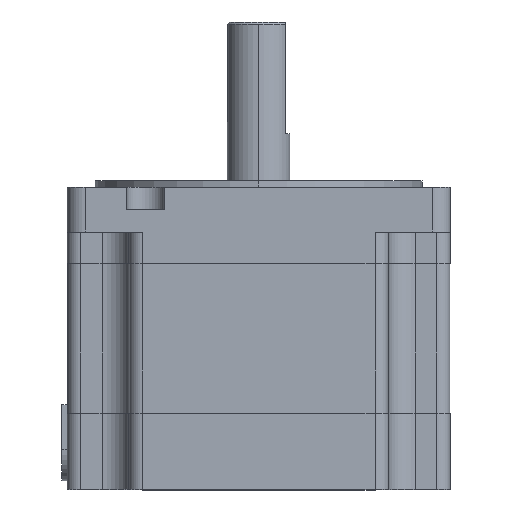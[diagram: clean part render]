
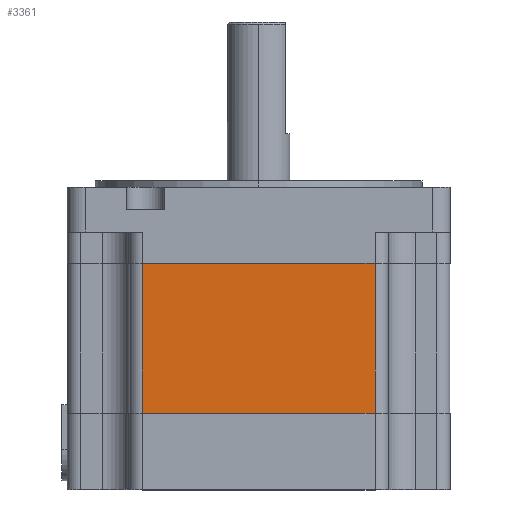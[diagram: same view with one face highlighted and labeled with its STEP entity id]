
A CAD part, top view. The second image highlights one B-rep face of the part: STEP entity #3361.
In plain terms, the highlighted planar face has unit normal (0, 0, 1).
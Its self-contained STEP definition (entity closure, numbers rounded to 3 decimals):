
#241 = ORIENTED_EDGE ( 'NONE', *, *, #2134, .F. ) ;
#314 = EDGE_CURVE ( 'NONE', #4125, #1324, #1613, .T. ) ;
#442 = LINE ( 'NONE', #4560, #6207 ) ;
#729 = FACE_OUTER_BOUND ( 'NONE', #2562, .T. ) ;
#1324 = VERTEX_POINT ( 'NONE', #3526 ) ;
#1369 = DIRECTION ( 'NONE',  ( -1., 0., 0. ) ) ;
#1480 = LINE ( 'NONE', #5646, #3958 ) ;
#1613 = LINE ( 'NONE', #4343, #2693 ) ;
#1773 = LINE ( 'NONE', #4342, #6201 ) ;
#2134 = EDGE_CURVE ( 'NONE', #4125, #4378, #442, .T. ) ;
#2162 = ORIENTED_EDGE ( 'NONE', *, *, #2312, .T. ) ;
#2312 = EDGE_CURVE ( 'NONE', #1324, #3831, #1773, .T. ) ;
#2549 = PLANE ( 'NONE',  #5301 ) ;
#2562 = EDGE_LOOP ( 'NONE', ( #6699, #241, #5929, #2162 ) ) ;
#2598 = CARTESIAN_POINT ( 'NONE',  ( 26., -40.5, 42.7 ) ) ;
#2660 = CARTESIAN_POINT ( 'NONE',  ( 26., -7., 42.7 ) ) ;
#2693 = VECTOR ( 'NONE', #2841, 1000. ) ;
#2841 = DIRECTION ( 'NONE',  ( -1., 0., 0. ) ) ;
#3297 = EDGE_CURVE ( 'NONE', #4378, #3831, #1480, .T. ) ;
#3361 = ADVANCED_FACE ( 'NONE', ( #729 ), #2549, .T. ) ;
#3526 = CARTESIAN_POINT ( 'NONE',  ( -26., -7., 42.7 ) ) ;
#3716 = DIRECTION ( 'NONE',  ( 0., 0., 1. ) ) ;
#3827 = CARTESIAN_POINT ( 'NONE',  ( 26., -7., 42.7 ) ) ;
#3831 = VERTEX_POINT ( 'NONE', #4851 ) ;
#3840 = DIRECTION ( 'NONE',  ( 0., -1., 0. ) ) ;
#3958 = VECTOR ( 'NONE', #1369, 1000. ) ;
#4125 = VERTEX_POINT ( 'NONE', #3827 ) ;
#4220 = DIRECTION ( 'NONE',  ( 1., 0., 0. ) ) ;
#4342 = CARTESIAN_POINT ( 'NONE',  ( -26., -7., 42.7 ) ) ;
#4343 = CARTESIAN_POINT ( 'NONE',  ( 26., -7., 42.7 ) ) ;
#4378 = VERTEX_POINT ( 'NONE', #2598 ) ;
#4560 = CARTESIAN_POINT ( 'NONE',  ( 26., -7., 42.7 ) ) ;
#4851 = CARTESIAN_POINT ( 'NONE',  ( -26., -40.5, 42.7 ) ) ;
#5188 = DIRECTION ( 'NONE',  ( 0., -1., 0. ) ) ;
#5301 = AXIS2_PLACEMENT_3D ( 'NONE', #2660, #3716, #4220 ) ;
#5646 = CARTESIAN_POINT ( 'NONE',  ( 26., -40.5, 42.7 ) ) ;
#5929 = ORIENTED_EDGE ( 'NONE', *, *, #314, .T. ) ;
#6201 = VECTOR ( 'NONE', #3840, 1000. ) ;
#6207 = VECTOR ( 'NONE', #5188, 1000. ) ;
#6699 = ORIENTED_EDGE ( 'NONE', *, *, #3297, .F. ) ;
